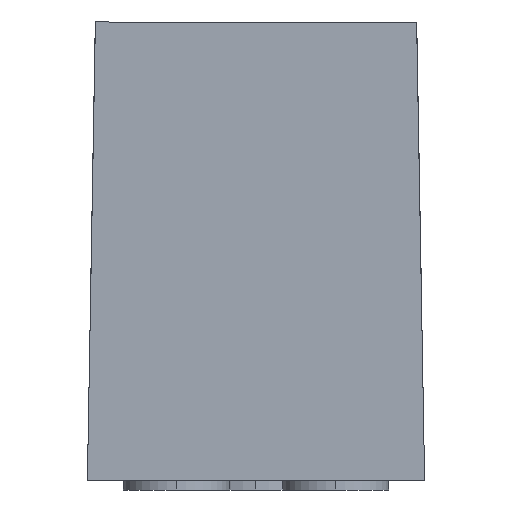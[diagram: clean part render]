
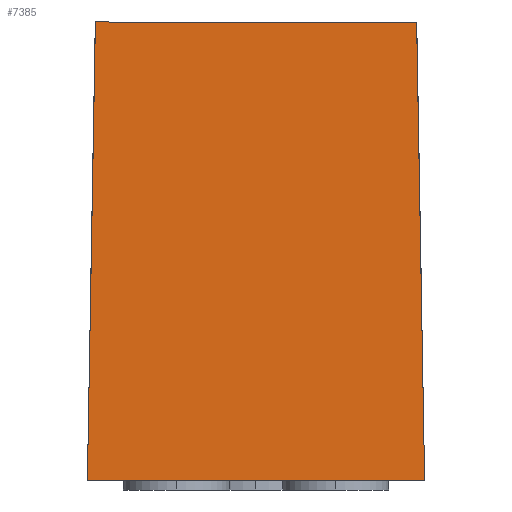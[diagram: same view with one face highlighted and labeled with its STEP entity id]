
A CAD part, left-side view. The second image highlights one B-rep face of the part: STEP entity #7385.
In plain terms, the highlighted planar face has unit normal (-1, 0, 0.018) as drawn and (1, 0, 0.017) by its records, which use the part's own axes.
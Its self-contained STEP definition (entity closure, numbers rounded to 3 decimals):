
#601=FACE_OUTER_BOUND('',#1047,.T.);
#1047=EDGE_LOOP('',(#6116,#6117,#6118,#6119));
#1882=LINE('',#11456,#2784);
#1883=LINE('',#11458,#2785);
#1884=LINE('',#11460,#2786);
#1885=LINE('',#11461,#2787);
#2784=VECTOR('',#9330,304.8);
#2785=VECTOR('',#9331,304.8);
#2786=VECTOR('',#9332,304.8);
#2787=VECTOR('',#9333,304.8);
#3480=VERTEX_POINT('',#11454);
#3481=VERTEX_POINT('',#11455);
#3482=VERTEX_POINT('',#11457);
#3483=VERTEX_POINT('',#11459);
#4406=EDGE_CURVE('',#3480,#3481,#1882,.T.);
#4407=EDGE_CURVE('',#3482,#3480,#1883,.T.);
#4408=EDGE_CURVE('',#3483,#3482,#1884,.T.);
#4409=EDGE_CURVE('',#3481,#3483,#1885,.T.);
#6116=ORIENTED_EDGE('',*,*,#4406,.F.);
#6117=ORIENTED_EDGE('',*,*,#4407,.F.);
#6118=ORIENTED_EDGE('',*,*,#4408,.F.);
#6119=ORIENTED_EDGE('',*,*,#4409,.F.);
#7049=PLANE('',#7828);
#7385=ADVANCED_FACE('',(#601),#7049,.T.);
#7828=AXIS2_PLACEMENT_3D('',#11453,#9328,#9329);
#9328=DIRECTION('center_axis',(1.,0.,0.017));
#9329=DIRECTION('ref_axis',(0.,1.,0.));
#9330=DIRECTION('',(0.,1.,0.));
#9331=DIRECTION('',(-0.017,0.017,1.));
#9332=DIRECTION('',(0.,-1.,0.));
#9333=DIRECTION('',(0.017,0.017,-1.));
#11453=CARTESIAN_POINT('Origin',(110.9,0.,1.5));
#11454=CARTESIAN_POINT('',(109.696,-24.196,70.5));
#11455=CARTESIAN_POINT('',(109.696,24.196,70.5));
#11456=CARTESIAN_POINT('',(109.696,-24.196,70.5));
#11457=CARTESIAN_POINT('',(110.9,-25.4,1.5));
#11458=CARTESIAN_POINT('',(110.9,-25.4,1.5));
#11459=CARTESIAN_POINT('',(110.9,25.4,1.5));
#11460=CARTESIAN_POINT('',(110.9,25.4,1.5));
#11461=CARTESIAN_POINT('',(109.696,24.196,70.5));
